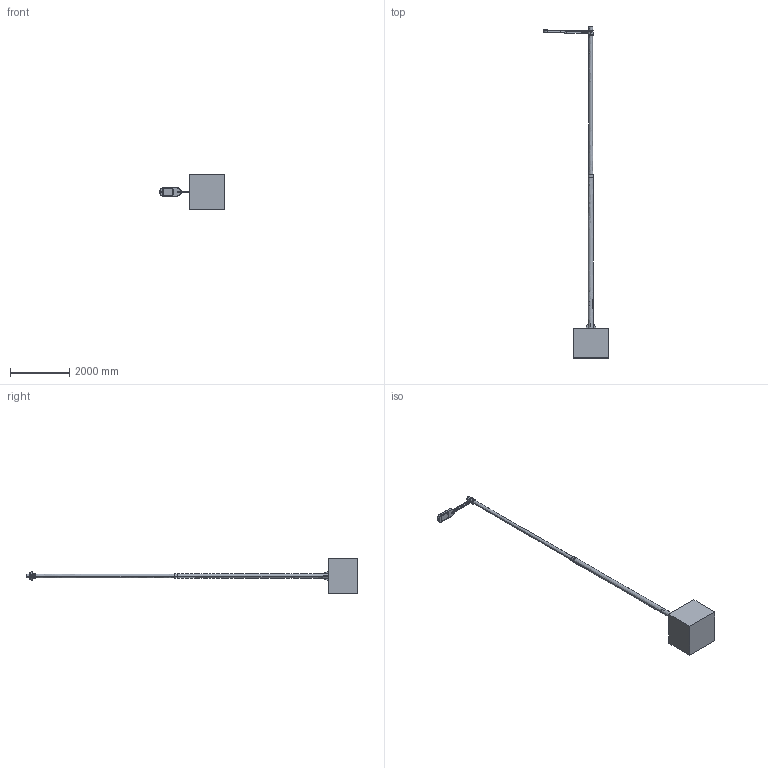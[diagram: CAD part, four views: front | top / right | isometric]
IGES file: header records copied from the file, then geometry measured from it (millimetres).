
Start section: SolidWorks IGES file using analytic representation for surfaces
Global section: file name: C:\SANTACOLE_PDM\Proyectos Catálogo\PROD-P11_014 -- CANDELA LED\6_Técnico comercial\3D WEB\IGES\Farola Candela LED 1020cm 2S 1L BRAZO MEDIO.IGS; native system: SolidWorks 2013; preprocessor: SolidWorks 2013; author: jordi.munoz; date: 150527.165707; units: millimetre
Bounding box: 2201.38 x 11224.5 x 1200 mm (x, y, z)
Surface area: 19348626.1 mm2 (no closed solid volume)
Topology: 0 solids, 0 shells, 2387 faces, 23403 edges, 23373 vertices
Faces by surface type: bspline 1714, revolution 673
